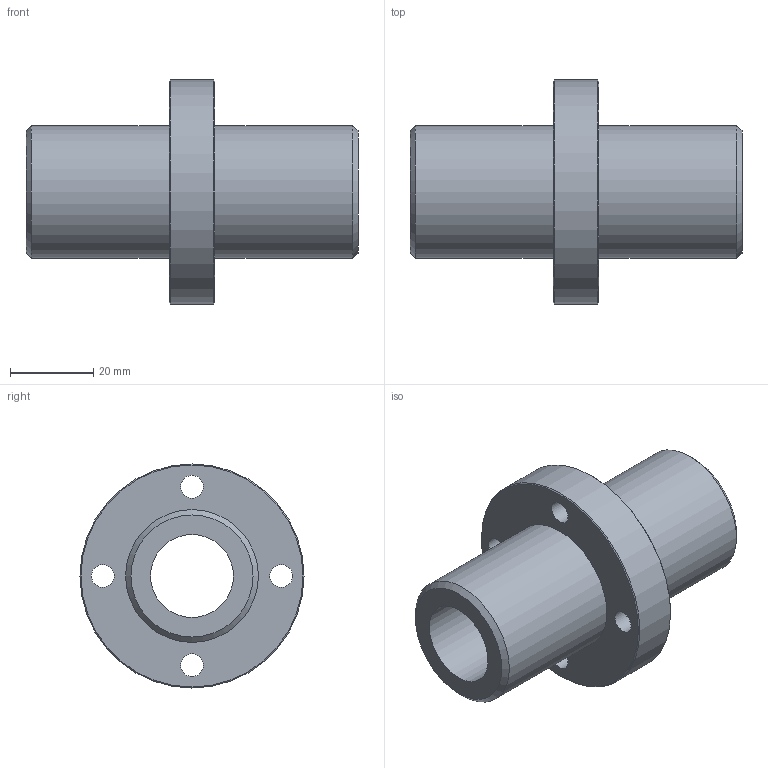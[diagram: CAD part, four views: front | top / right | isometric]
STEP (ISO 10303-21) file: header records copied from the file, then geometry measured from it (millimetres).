
FILE_DESCRIPTION(('STEP AP203'),'1');
FILE_NAME('//192.168.1.1/share/s-4 技術開発/s-4-4_CAD/s-4-4-3_見直し済み/PBC LINEAR修正済み/CFPJ/CFPJ_TOP/CFPJR/CFPJR20.step','2022-03-24T04:17:00',(' '),(' '),'Spatial InterOp 3D',' ',' ');
FILE_SCHEMA(('CONFIG_CONTROL_DESIGN'));
Length unit declared in the file: millimetre
Products named in the file (1): 1
Bounding box: 80 x 54 x 54 mm (x, y, z)
Volume: 53518.1 mm3; surface area: 18367.8 mm2
Topology: 1 solids, 1 shells, 24 faces, 51 edges, 35 vertices
Faces by surface type: cylinder 12, plane 8, cone 4
Full cylindrical faces by diameter (mm): 5.5 x4, 9 x4, 20 x1, 32 x2, 54 x1
Entity records: 588 total; most frequent: DIRECTION 106, CARTESIAN_POINT 81, EDGE_LOOP 56, ORIENTED_EDGE 56, AXIS2_PLACEMENT_3D 53, FACE_OUTER_BOUND 36, EDGE_CURVE 28, VERTEX_POINT 28
